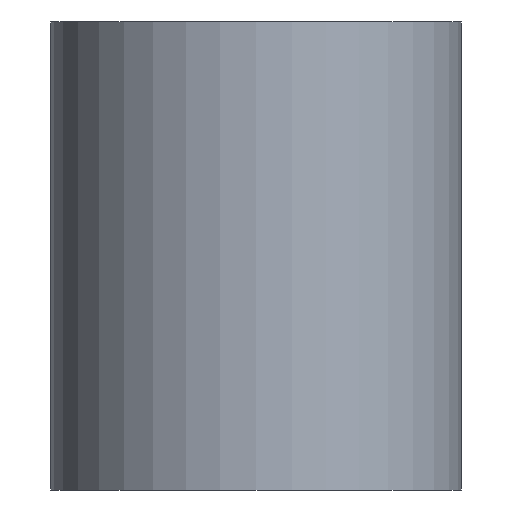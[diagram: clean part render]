
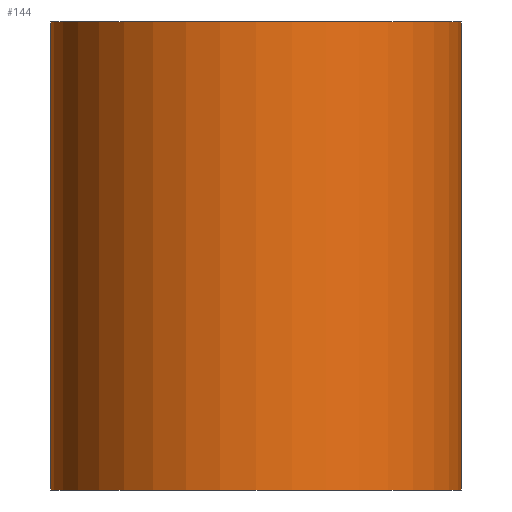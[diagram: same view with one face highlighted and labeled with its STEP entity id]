
A CAD part, left-side view. The second image highlights one B-rep face of the part: STEP entity #144.
In plain terms, the highlighted cylindrical face has radius 5 mm (diameter 10 mm), a full revolution.
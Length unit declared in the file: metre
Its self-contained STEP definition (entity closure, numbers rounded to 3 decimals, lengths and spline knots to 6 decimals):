
#20=LINE('',#241,#28);
#22=LINE('',#247,#30);
#28=VECTOR('',#195,1.);
#30=VECTOR('',#201,1.);
#41=ORIENTED_EDGE('',*,*,#72,.T.);
#42=ORIENTED_EDGE('',*,*,#74,.F.);
#43=ORIENTED_EDGE('',*,*,#75,.F.);
#44=ORIENTED_EDGE('',*,*,#76,.F.);
#45=ORIENTED_EDGE('',*,*,#77,.T.);
#72=EDGE_CURVE('',#89,#88,#20,.T.);
#74=EDGE_CURVE('',#90,#88,#99,.T.);
#75=EDGE_CURVE('',#91,#90,#22,.T.);
#76=EDGE_CURVE('',#89,#91,#100,.T.);
#77=EDGE_CURVE('',#92,#92,#101,.T.);
#88=VERTEX_POINT('',#240);
#89=VERTEX_POINT('',#242);
#90=VERTEX_POINT('',#246);
#91=VERTEX_POINT('',#248);
#92=VERTEX_POINT('',#251);
#99=CIRCLE('',#169,0.005);
#100=CIRCLE('',#170,0.005);
#101=CIRCLE('',#171,0.005);
#108=EDGE_LOOP('',(#41,#42,#43,#44));
#109=EDGE_LOOP('',(#45));
#124=FACE_BOUND('',#108,.T.);
#125=FACE_BOUND('',#109,.T.);
#139=CYLINDRICAL_SURFACE('',#168,0.005);
#144=ADVANCED_FACE('',(#124,#125),#139,.T.);
#168=AXIS2_PLACEMENT_3D('',#244,#197,#198);
#169=AXIS2_PLACEMENT_3D('',#245,#199,#200);
#170=AXIS2_PLACEMENT_3D('',#249,#202,#203);
#171=AXIS2_PLACEMENT_3D('',#250,#204,#205);
#195=DIRECTION('',(0.,0.,-1.));
#197=DIRECTION('',(0.,0.,-1.));
#198=DIRECTION('',(-1.,0.,0.));
#199=DIRECTION('',(0.,0.,1.));
#200=DIRECTION('',(1.,0.,0.));
#201=DIRECTION('',(0.,0.,-1.));
#202=DIRECTION('',(0.,0.,1.));
#203=DIRECTION('',(1.,0.,0.));
#204=DIRECTION('',(0.,0.,1.));
#205=DIRECTION('',(1.,0.,0.));
#240=CARTESIAN_POINT('',(0.,0.005,0.));
#241=CARTESIAN_POINT('',(0.,0.005,0.004));
#242=CARTESIAN_POINT('',(0.,0.005,0.004));
#244=CARTESIAN_POINT('',(0.,0.,0.004));
#245=CARTESIAN_POINT('',(0.,0.,0.));
#246=CARTESIAN_POINT('',(0.,-0.005,0.));
#247=CARTESIAN_POINT('',(0.,-0.005,0.004));
#248=CARTESIAN_POINT('',(0.,-0.005,0.004));
#249=CARTESIAN_POINT('',(0.,0.,0.004));
#250=CARTESIAN_POINT('',(0.,0.,-0.0074));
#251=CARTESIAN_POINT('',(0.005,0.,-0.0074));
